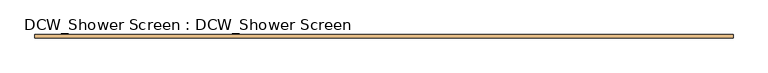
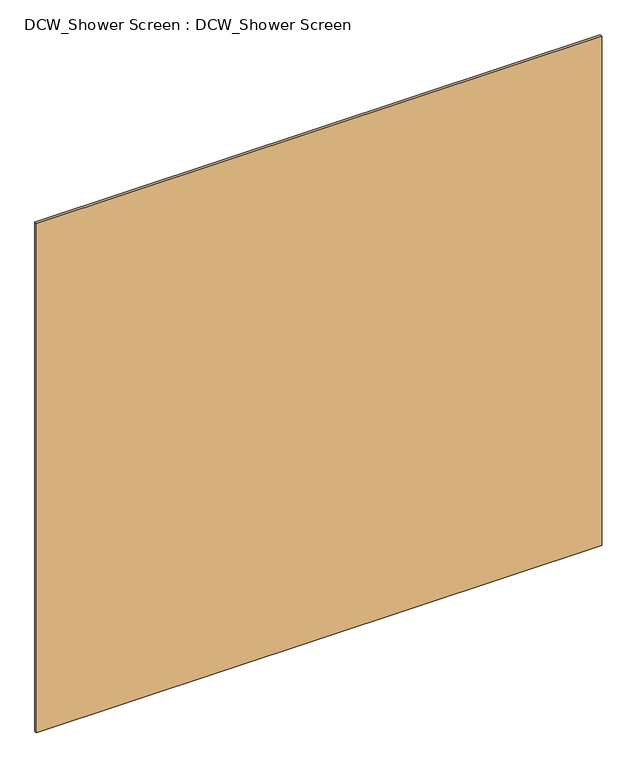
"""IFC4 building model written with IfcOpenShell, lengths in millimetres: door geometry, DCW_Shower Screen : DCW_Shower Screen."""

import ifcopenshell
import ifcopenshell.guid

model = None  # the IFC model being written
_history = None  # IfcOwnerHistory: only IFC2X3 demands one
_inside = {}  # id of a spatial element -> (the spatial element, [elements in it])
_under = {}  # id of a project, library or spatial element -> (it, [spatial elements below it])
_declared = {}  # id of a project -> (the project, [libraries it declares])
_typed = {}  # id of a type object -> (the type object, [elements of that type])
_made_of = {}  # id of a material, layer set ... -> (it, [elements and type objects made of it])


def new_model(schema):
    """Start an empty IFC model of exactly this schema.

    Asked for "IFC4X3", IfcOpenShell would pick the latest addendum, in which some entities
    have other attributes; the version numbers below select the first issue.
    IFC2X3 requires an IfcOwnerHistory on every rooted entity: one is made here for all.
    """
    global model, _history
    if schema == "IFC4X3":
        model = ifcopenshell.file(schema_version=(4, 3, 0, 0))
    else:
        model = ifcopenshell.file(schema=schema)
    _inside.clear()
    _under.clear()
    _declared.clear()
    _typed.clear()
    _made_of.clear()
    _history = None
    if model.schema == "IFC2X3":
        org = make("IfcOrganization", Name="unknown")
        user = make(
            "IfcPersonAndOrganization",
            ThePerson=make("IfcPerson", FamilyName="unknown"),
            TheOrganization=org,
        )
        app = make(
            "IfcApplication",
            ApplicationDeveloper=org,
            Version="unknown",
            ApplicationFullName="unknown",
            ApplicationIdentifier="unknown",
        )
        _history = make(
            "IfcOwnerHistory",
            OwningUser=user,
            OwningApplication=app,
            ChangeAction="ADDED",
            CreationDate=0,
        )
    return model


def make(cls, **values):
    """One entity of the class cls with the attributes given. An attribute that is None is left unset."""
    return model.create_entity(
        cls, **{name: value for name, value in values.items() if value is not None}
    )


def rooted(cls, **values):
    """An entity with a GlobalId (a new one), such as an element, a storey or a relation."""
    return make(cls, GlobalId=ifcopenshell.guid.new(), OwnerHistory=_history, **values)


def si_unit(unit_type, name, prefix=None):
    """IfcSIUnit, for example si_unit("LENGTHUNIT", "METRE", prefix="MILLI")."""
    return make("IfcSIUnit", UnitType=unit_type, Prefix=prefix, Name=name)


def assignment(units):
    """IfcUnitAssignment: the units of a project."""
    return None if units is None else make("IfcUnitAssignment", Units=units)


def point(xyz):
    """IfcCartesianPoint."""
    return None if xyz is None else make("IfcCartesianPoint", Coordinates=xyz)


def direction(xyz):
    """IfcDirection."""
    return None if xyz is None else make("IfcDirection", DirectionRatios=xyz)


def frame(location, z_axis=None, x_axis=None):
    """IfcAxis2Placement3D, a coordinate frame: its origin and axes. An axis left out is left unset."""
    return make(
        "IfcAxis2Placement3D",
        Location=point(location),
        Axis=direction(z_axis),
        RefDirection=direction(x_axis),
    )


def origin():
    """The frame at (0, 0, 0) with its axes left unset."""
    return frame((0.0, 0.0, 0.0))


def origin_with_axes():
    """The frame at (0, 0, 0) with the z axis (0, 0, 1) and the x axis (1, 0, 0) written out."""
    return frame((0.0, 0.0, 0.0), z_axis=(0.0, 0.0, 1.0), x_axis=(1.0, 0.0, 0.0))


def place(relative_to, where):
    """IfcLocalPlacement: puts the frame where relative to a parent placement (None: the world)."""
    return make(
        "IfcLocalPlacement", PlacementRelTo=relative_to, RelativePlacement=where
    )


def context(
    kind, dimensions, precision=None, world=None, true_north=None, identifier=None
):
    """IfcGeometricRepresentationContext, for example the 3D "Model" context."""
    return make(
        "IfcGeometricRepresentationContext",
        ContextIdentifier=identifier,
        ContextType=kind,
        CoordinateSpaceDimension=dimensions,
        Precision=precision,
        WorldCoordinateSystem=world,
        TrueNorth=true_north,
    )


def project(units=None, contexts=None):
    """IfcProject with its units and contexts."""
    return rooted(
        "IfcProject",
        Name="project",
        RepresentationContexts=contexts,
        UnitsInContext=assignment(units),
    )


def spatial(cls, under=None, at=None, **own):
    """A site, building, storey or space (cls), placed at a placement, below another one or the project."""
    s = rooted(cls, ObjectPlacement=at, **own)
    if under is not None:
        _under.setdefault(under.id(), (under, []))[1].append(s)
    return s


def polyline(points):
    """IfcPolyline through the points."""
    return make("IfcPolyline", Points=[point(p) for p in points])


def outline(outer, holes=None, kind="AREA"):
    """IfcArbitraryClosedProfileDef: a profile drawn as a closed curve; with holes, ...WithVoids."""
    if holes is None:
        return make("IfcArbitraryClosedProfileDef", ProfileType=kind, OuterCurve=outer)
    return make(
        "IfcArbitraryProfileDefWithVoids",
        ProfileType=kind,
        OuterCurve=outer,
        InnerCurves=holes,
    )


def extrude(swept, where, along, depth):
    """IfcExtrudedAreaSolid: the profile swept, set in the frame where, extruded along a direction by depth."""
    return make(
        "IfcExtrudedAreaSolid",
        SweptArea=swept,
        Position=where,
        ExtrudedDirection=direction(along),
        Depth=depth,
    )


def shape(context_of_items, identifier, shape_type, items):
    """IfcShapeRepresentation: the items that make up one representation, for example the "Body"."""
    return make(
        "IfcShapeRepresentation",
        ContextOfItems=context_of_items,
        RepresentationIdentifier=identifier,
        RepresentationType=shape_type,
        Items=items,
    )


def source(mapping_origin, context_of_items, identifier, shape_type, items):
    """IfcRepresentationMap: a shape defined once, which mapped items show again and again."""
    return make(
        "IfcRepresentationMap",
        MappingOrigin=mapping_origin,
        MappedRepresentation=shape(context_of_items, identifier, shape_type, items),
    )


def transform(
    local_origin,
    x_axis=None,
    y_axis=None,
    z_axis=None,
    scale=None,
    scale2=None,
    scale3=None,
    uniform=True,
):
    """IfcCartesianTransformationOperator3D, or its non-uniform kind. x_axis, y_axis, z_axis: its Axis1, 2, 3."""
    if uniform:
        return make(
            "IfcCartesianTransformationOperator3D",
            Axis1=direction(x_axis),
            Axis2=direction(y_axis),
            LocalOrigin=point(local_origin),
            Scale=scale,
            Axis3=direction(z_axis),
        )
    return make(
        "IfcCartesianTransformationOperator3DnonUniform",
        Axis1=direction(x_axis),
        Axis2=direction(y_axis),
        LocalOrigin=point(local_origin),
        Scale=scale,
        Axis3=direction(z_axis),
        Scale2=scale2,
        Scale3=scale3,
    )


def mapped(mapping_source, mapping_target):
    """IfcMappedItem: shows the shape of a source again, moved by a transform."""
    return make(
        "IfcMappedItem", MappingSource=mapping_source, MappingTarget=mapping_target
    )


def made_of(thing, what):
    """Note that an element or type object is made of a material, layer set ...; save() writes the relation."""
    if what is not None:
        _made_of.setdefault(what.id(), (what, []))[1].append(thing)
    return thing


def element(
    cls,
    number,
    at=None,
    inside=None,
    cuts=None,
    type_object=None,
    material=None,
    context=None,
    identifier="Body",
    shape_type=None,
    held_by="IfcProductDefinitionShape",
    body=None,
    shapes=None,
    **own,
):
    """One element of the class cls, such as IfcWall. Its Tag is "e" and its number.

    at: its placement. inside: the storey or other place that contains it. cuts: it is an
    opening in that element (IfcRelVoidsElement). A single representation is given by context,
    identifier, shape_type and body (its items); several are given by shapes. held_by: the class
    of the entity that holds the representations. save() writes the other relations.
    """
    e = rooted(cls, Tag="e%d" % number, ObjectPlacement=at, **own)
    if body is not None:
        shapes = [shape(context, identifier, shape_type, body)]
    if shapes is not None:
        e.Representation = make(held_by, Representations=shapes)
    if inside is not None:
        _inside.setdefault(inside.id(), (inside, []))[1].append(e)
    if cuts is not None:
        rooted(
            "IfcRelVoidsElement", RelatingBuildingElement=cuts, RelatedOpeningElement=e
        )
    if type_object is not None:
        _typed.setdefault(type_object.id(), (type_object, []))[1].append(e)
    return made_of(e, material)


def aggregate(whole, parts):
    """IfcRelAggregates: a whole, such as a stair, and the parts it consists of."""
    return rooted("IfcRelAggregates", RelatingObject=whole, RelatedObjects=parts)


def save(model, path):
    """Write the relations noted so far, then the file.

    IfcRelAggregates (storeys below a building ...), IfcRelContainedInSpatialStructure (elements
    in a storey), IfcRelDefinesByType, IfcRelAssociatesMaterial and IfcRelDeclares: one each for
    every whole, place, type object, material and project.
    """
    for whole, parts in _under.values():
        aggregate(whole, parts)
    for where, things in _inside.values():
        rooted(
            "IfcRelContainedInSpatialStructure",
            RelatedElements=things,
            RelatingStructure=where,
        )
    for kind, things in _typed.values():
        rooted("IfcRelDefinesByType", RelatedObjects=things, RelatingType=kind)
    for what, things in _made_of.values():
        rooted("IfcRelAssociatesMaterial", RelatedObjects=things, RelatingMaterial=what)
    for by, libraries in _declared.values():
        rooted("IfcRelDeclares", RelatingContext=by, RelatedDefinitions=libraries)
    model.write(path)


def dcw_shower_screen_dcw_shower_screen_0eb16d9f(model_context):
    return source(origin(), model_context, "Body", "SweptSolid", [
        extrude(outline(polyline([(1102.6821154, 0.0), (-1102.6821154, 0.0), (-1102.6821154, 10.0), (1102.6821154, 10.0), (1102.6821154, 0.0)])), origin_with_axes(), (0.0, 0.0, 1.0), 2100.0),
    ])


if __name__ == "__main__":
    model = new_model("IFC4")
    model_context = context("Model", 3, world=origin())
    ifc_project = project(units=[si_unit("LENGTHUNIT", "METRE", prefix="MILLI")], contexts=[model_context])
    site = spatial("IfcSite", under=ifc_project)
    building = spatial("IfcBuilding", under=site)
    placement = place(None, origin())
    dcw_shower_screen_dcw_shower_screen_shape = dcw_shower_screen_dcw_shower_screen_0eb16d9f(model_context)
    element("IfcDoor", 1, ObjectType="DCW_Shower Screen : DCW_Shower Screen", at=placement, inside=building, context=model_context, shape_type="MappedRepresentation", body=[
        mapped(dcw_shower_screen_dcw_shower_screen_shape, transform((0.0, 0.0, 0.0), x_axis=(1.0, 0.0, 0.0), y_axis=(0.0, 1.0, 0.0), z_axis=(0.0, 0.0, 1.0))),
    ])
    save(model, "model.ifc")
